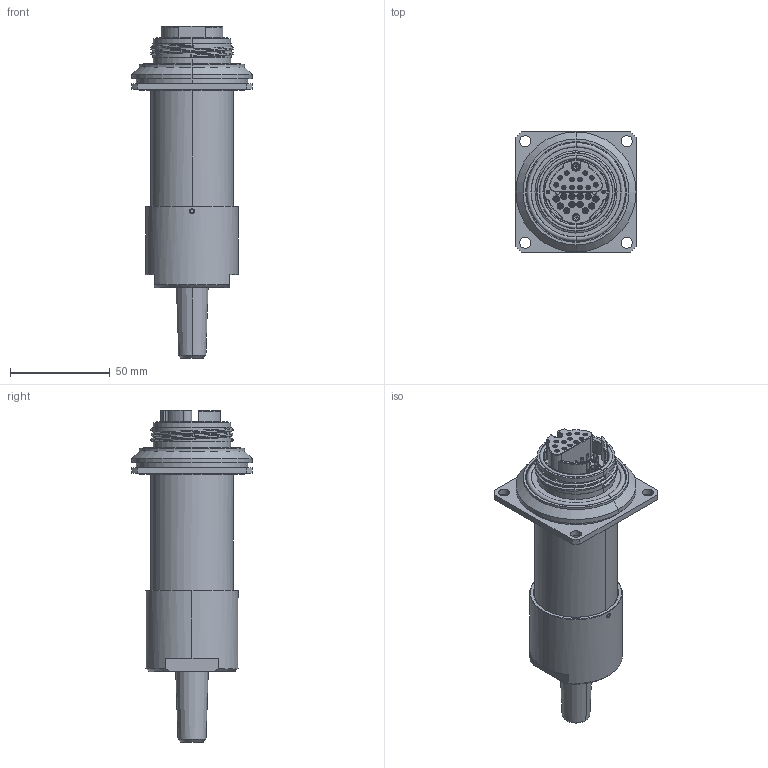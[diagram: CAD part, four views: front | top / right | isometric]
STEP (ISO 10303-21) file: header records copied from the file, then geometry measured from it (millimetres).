
FILE_DESCRIPTION (( 'STEP AP214' ), '1' );
FILE_NAME ('QFOCA3-RHFX-24X-X-SX.STEP', '2025-08-05T20:56:08', ( '' ), ( '' ), 'SwSTEP 2.0', 'SolidWorks 2024', '' );
FILE_SCHEMA (( 'AUTOMOTIVE_DESIGN' ));
Length unit declared in the file: inch
Products named in the file (1): QFOCA3-RHFX-24X-X-SX
Bounding box: 60.2 x 60.2 x 166.04 mm (x, y, z)
Volume: 195038.1 mm3; surface area: 42104.3 mm2
Topology: 4 solids, 13 shells, 1029 faces, 2326 edges, 1407 vertices
Faces by surface type: cylinder 359, cone 245, plane 213, torus 202, bspline 10
Entity records: 30292 total; most frequent: CARTESIAN_POINT 6614, DIRECTION 5450, ORIENTED_EDGE 4648, EDGE_CURVE 2324, AXIS2_PLACEMENT_3D 2319, VERTEX_POINT 1407, CIRCLE 1299, EDGE_LOOP 1143
